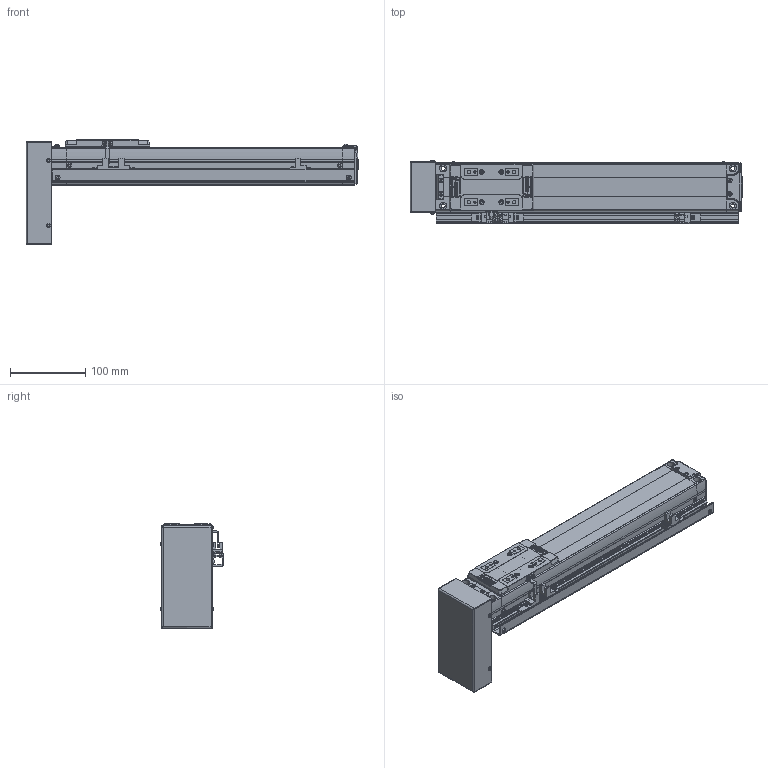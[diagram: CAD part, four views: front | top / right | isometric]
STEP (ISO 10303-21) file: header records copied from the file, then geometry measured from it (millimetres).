
FILE_DESCRIPTION(('STEP AP214'),'1');
FILE_NAME('Z:/Web/3D/SAN65/STP/SAN65ㅁㅁ-250PB+3SR.stp','2012-06-14T04:32:48',(' '),(' '),'Spatial InterOp 3D',' ',' ');
FILE_SCHEMA(('automotive_design'));
Length unit declared in the file: metre
Products named in the file (57): SAN65__-250; BODY-SAN65; REAR-SAN65; RRCV-SAN65; 스크루 : Round - M3.0 x 6.0; FRONT-SAN65; SHAFT-SAN65; RN8 x 0.75; SSFX-SAN65; SLIDE-SAN65; SLCV-SAN65; 스크루 : Countersunk - M3.0 x 6.0; ____200; PB; BTCV-SAN65; M3.0 x 6.0; 3SR; SRL-16x17-450L; - OT; EE-SX674; SBK-SX674-352; HOME; + OT; DOG; SDG-SAN65; 스크루 : Round - M3.0 x 5.0
Assembly tree (56 placements, depth 4):
  ____200
    SAN65__-250
      BODY-SAN65
      REAR-SAN65
        REAR-SAN65
        RRCV-SAN65
        스크루 : Round - M3.0 x 6.0
        스크루 : Round - M3.0 x 6.0
        스크루 : Round - M3.0 x 6.0
        스크루 : Round - M3.0 x 6.0
        스크루 : Round - M3.0 x 6.0
        스크루 : Round - M3.0 x 6.0
      FRONT-SAN65
        FRONT-SAN65
        SHAFT-SAN65
        RN8 x 0.75
        SSFX-SAN65
        스크루 : Round - M3.0 x 6.0
        스크루 : Round - M3.0 x 6.0
        스크루 : Round - M3.0 x 6.0
        스크루 : Round - M3.0 x 6.0
      SLIDE-SAN65
        SLIDE-SAN65
        SLCV-SAN65
        스크루 : Countersunk - M3.0 x 6.0
        스크루 : Countersunk - M3.0 x 6.0
        스크루 : Countersunk - M3.0 x 6.0
        스크루 : Countersunk - M3.0 x 6.0
    PB
      BTCV-SAN65
      M3.0 x 6.0
      M3.0 x 6.0
      M3.0 x 6.0
      M3.0 x 6.0
    3SR
      SRL-16x17-450L
      스크루 : Round - M3.0 x 6.0
      스크루 : Round - M3.0 x 6.0
      - OT
        EE-SX674
        SBK-SX674-352
        스크루 : Round - M3.0 x 6.0
        스크루 : Round - M3.0 x 6.0
      HOME
        EE-SX674
        SBK-SX674-352
        스크루 : Round - M3.0 x 6.0
        스크루 : Round - M3.0 x 6.0
      + OT
        EE-SX674
        SBK-SX674-352
        스크루 : Round - M3.0 x 6.0
        스크루 : Round - M3.0 x 6.0
      DOG
        SDG-SAN65
        스크루 : Round - M3.0 x 5.0
        스크루 : Round - M3.0 x 5.0
Bounding box: 440.15 x 84.06 x 138.5 mm (x, y, z)
Volume: 1652423.2 mm3; surface area: 260778.5 mm2
Topology: 46 solids, 46 shells, 1943 faces, 4956 edges, 3232 vertices
Faces by surface type: plane 1292, cylinder 478, cone 89, sphere 36, bspline 30, torus 15, extrusion 3
Full cylindrical faces by diameter (mm): 0.571 x2, 0.706 x1, 1.727 x2, 2.132 x1, 2.2 x4, 2.5 x15, 2.528 x4, 3 x6, 3.121 x2, 3.3 x4, 3.4 x8, 3.5 x14, 4.2 x24, 4.849 x4, 5 x3, 5.5 x4, 5.987 x2, 6 x6, 6.35 x1, 6.5 x2, 7 x1, 8 x4, 9.5 x4, 13 x1, 15 x1, 19 x1, 26 x1, 38.1 x1
Entity records: 78353 total; most frequent: CARTESIAN_POINT 14913, DIRECTION 9737, ORIENTED_EDGE 9260, EDGE_CURVE 4630, VECTOR 3273, LINE 3270, AXIS2_PLACEMENT_3D 3232, VERTEX_POINT 3168
